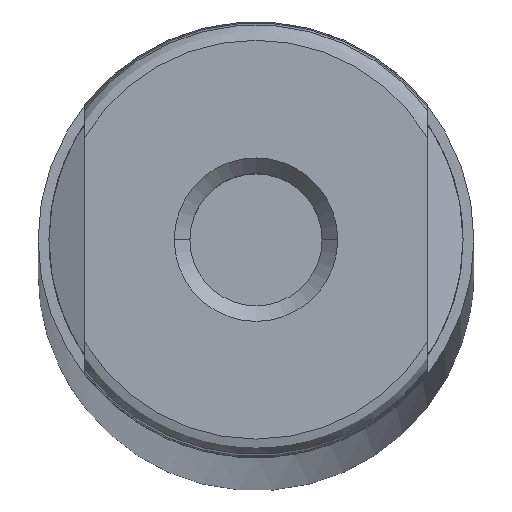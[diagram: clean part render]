
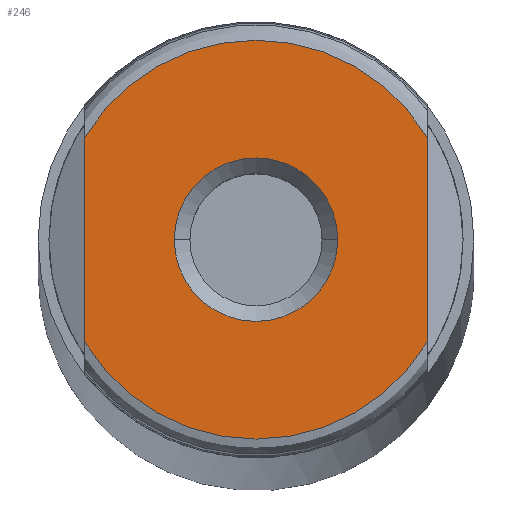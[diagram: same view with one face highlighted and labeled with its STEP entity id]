
A CAD part, top view. The second image highlights one B-rep face of the part: STEP entity #246.
In plain terms, the highlighted planar face has unit normal (0, 0, 1).
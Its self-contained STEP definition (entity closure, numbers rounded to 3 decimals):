
#43 = EDGE_LOOP ( 'NONE', ( #1352, #279 ) ) ;
#44 = VERTEX_POINT ( 'NONE', #779 ) ;
#53 = EDGE_LOOP ( 'NONE', ( #56, #103, #833, #535 ) ) ;
#56 = ORIENTED_EDGE ( 'NONE', *, *, #222, .T. ) ;
#62 = EDGE_CURVE ( 'NONE', #285, #91, #893, .T. ) ;
#87 = EDGE_CURVE ( 'NONE', #407, #1274, #1052, .T. ) ;
#91 = VERTEX_POINT ( 'NONE', #1081 ) ;
#103 = ORIENTED_EDGE ( 'NONE', *, *, #260, .T. ) ;
#169 = VERTEX_POINT ( 'NONE', #634 ) ;
#210 = EDGE_CURVE ( 'NONE', #169, #91, #982, .T. ) ;
#222 = EDGE_CURVE ( 'NONE', #285, #44, #1016, .T. ) ;
#246 = ADVANCED_FACE ( 'NONE', ( #351, #352 ), #353, .F. ) ;
#260 = EDGE_CURVE ( 'NONE', #44, #169, #417, .T. ) ;
#279 = ORIENTED_EDGE ( 'NONE', *, *, #498, .F. ) ;
#285 = VERTEX_POINT ( 'NONE', #558 ) ;
#351 = FACE_BOUND ( 'NONE', #43, .T. ) ;
#352 = FACE_OUTER_BOUND ( 'NONE', #53, .T. ) ;
#353 = PLANE ( 'NONE',  #354 ) ;
#354 = AXIS2_PLACEMENT_3D ( 'NONE', #356, #357, #358 ) ;
#356 = CARTESIAN_POINT ( 'NONE',  ( 0., 0., 0. ) ) ;
#357 = DIRECTION ( 'NONE',  ( 0., 0., -1. ) ) ;
#358 = DIRECTION ( 'NONE',  ( -1., 0., 0. ) ) ;
#407 = VERTEX_POINT ( 'NONE', #754 ) ;
#417 = LINE ( 'NONE', #418, #419 ) ;
#418 = CARTESIAN_POINT ( 'NONE',  ( 11., -14., 0. ) ) ;
#419 = VECTOR ( 'NONE', #420, 1000. ) ;
#420 = DIRECTION ( 'NONE',  ( 0., 1., 0. ) ) ;
#498 = EDGE_CURVE ( 'NONE', #1274, #407, #839, .T. ) ;
#535 = ORIENTED_EDGE ( 'NONE', *, *, #62, .F. ) ;
#558 = CARTESIAN_POINT ( 'NONE',  ( -11., -6.56, 0. ) ) ;
#634 = CARTESIAN_POINT ( 'NONE',  ( 11., 6.56, 0. ) ) ;
#754 = CARTESIAN_POINT ( 'NONE',  ( 5.25, 0., 0. ) ) ;
#779 = CARTESIAN_POINT ( 'NONE',  ( 11., -6.56, 0. ) ) ;
#833 = ORIENTED_EDGE ( 'NONE', *, *, #210, .T. ) ;
#839 = CIRCLE ( 'NONE', #840, 5.25 ) ;
#840 = AXIS2_PLACEMENT_3D ( 'NONE', #841, #842, #843 ) ;
#841 = CARTESIAN_POINT ( 'NONE',  ( 0., 0., 0. ) ) ;
#842 = DIRECTION ( 'NONE',  ( 0., 0., 1. ) ) ;
#843 = DIRECTION ( 'NONE',  ( 1., 0., 0. ) ) ;
#893 = LINE ( 'NONE', #894, #895 ) ;
#894 = CARTESIAN_POINT ( 'NONE',  ( -11., -14., 0. ) ) ;
#895 = VECTOR ( 'NONE', #896, 1000. ) ;
#896 = DIRECTION ( 'NONE',  ( 0., 1., 0. ) ) ;
#982 = CIRCLE ( 'NONE', #983, 12.808 ) ;
#983 = AXIS2_PLACEMENT_3D ( 'NONE', #984, #985, #986 ) ;
#984 = CARTESIAN_POINT ( 'NONE',  ( 0., 0., 0. ) ) ;
#985 = DIRECTION ( 'NONE',  ( 0., 0., 1. ) ) ;
#986 = DIRECTION ( 'NONE',  ( 1., 0., 0. ) ) ;
#1016 = CIRCLE ( 'NONE', #1017, 12.808 ) ;
#1017 = AXIS2_PLACEMENT_3D ( 'NONE', #1018, #1019, #1020 ) ;
#1018 = CARTESIAN_POINT ( 'NONE',  ( 0., 0., 0. ) ) ;
#1019 = DIRECTION ( 'NONE',  ( 0., 0., 1. ) ) ;
#1020 = DIRECTION ( 'NONE',  ( 1., 0., 0. ) ) ;
#1052 = CIRCLE ( 'NONE', #1053, 5.25 ) ;
#1053 = AXIS2_PLACEMENT_3D ( 'NONE', #1054, #1055, #1056 ) ;
#1054 = CARTESIAN_POINT ( 'NONE',  ( 0., 0., 0. ) ) ;
#1055 = DIRECTION ( 'NONE',  ( 0., 0., 1. ) ) ;
#1056 = DIRECTION ( 'NONE',  ( 1., 0., 0. ) ) ;
#1081 = CARTESIAN_POINT ( 'NONE',  ( -11., 6.56, 0. ) ) ;
#1242 = CARTESIAN_POINT ( 'NONE',  ( -5.25, 0., 0. ) ) ;
#1274 = VERTEX_POINT ( 'NONE', #1242 ) ;
#1352 = ORIENTED_EDGE ( 'NONE', *, *, #87, .F. ) ;
